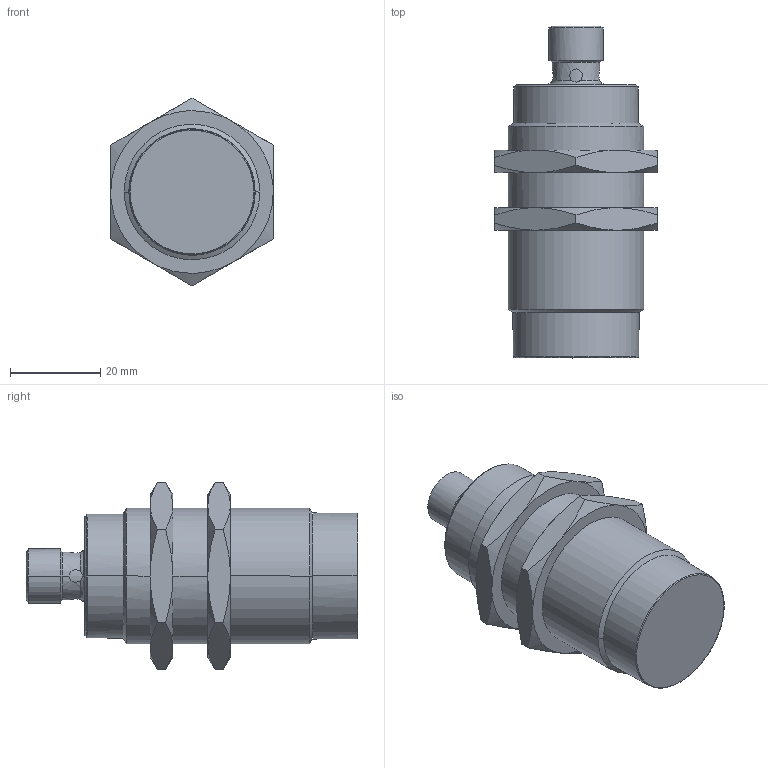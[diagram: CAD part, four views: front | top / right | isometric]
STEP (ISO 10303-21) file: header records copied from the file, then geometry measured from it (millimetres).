
FILE_DESCRIPTION((''),'2;1');
FILE_NAME('U:\imartini\IS_230MM_4NO_40N_S12.stp', '2009-05-14T10:54:12',('User'),('SDRC'),'I-DEAS Master Series 9','UNIX', 'Yes');
FILE_SCHEMA(('CONFIG_CONTROL_DESIGN', 'GEOMETRIC_VALIDATION_PROPERTIES_MIM','SHAPE_APPEARANCE_LAYER_MIM'));
Length unit declared in the file: millimetre
Bounding box: 36 x 73.5 x 41.57 mm (x, y, z)
Surface area: 10951.5 mm2 (no closed solid volume)
Topology: 0 solids, 13 shells, 218 faces, 662 edges, 442 vertices
Faces by surface type: bspline 218
Entity records: 8918 total; most frequent: CARTESIAN_POINT 5253, ORIENTED_EDGE 1162, EDGE_CURVE 652, VERTEX_POINT 442, QUASI_UNIFORM_CURVE 368, EDGE_LOOP 236, FACE_OUTER_BOUND 218, ADVANCED_FACE 218
